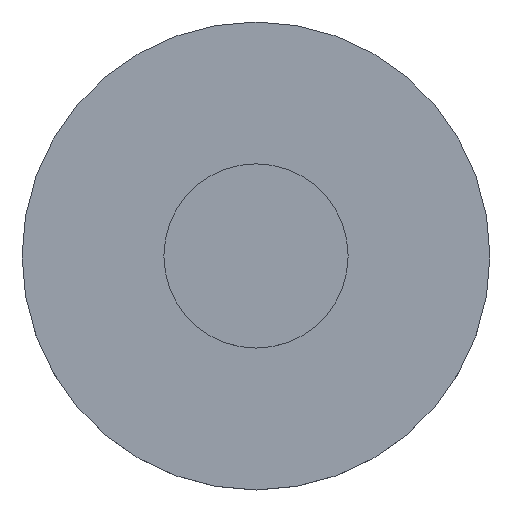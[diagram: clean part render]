
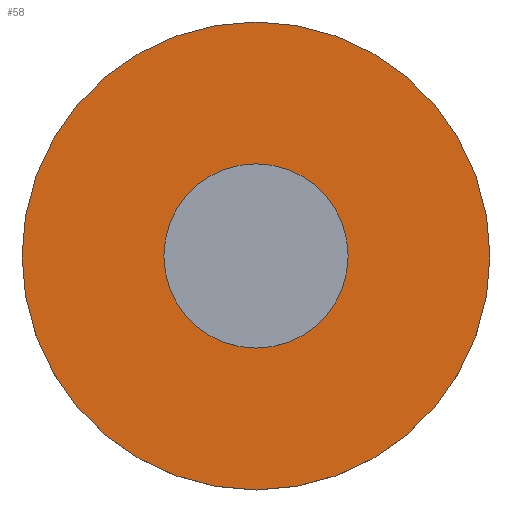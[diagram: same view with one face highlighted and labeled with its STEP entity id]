
A CAD part, top view. The second image highlights one B-rep face of the part: STEP entity #58.
In plain terms, the highlighted planar face has unit normal (0, 0, 1).
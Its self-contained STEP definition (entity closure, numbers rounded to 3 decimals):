
#58=ADVANCED_FACE('',(#72),#73,.T.);
#72=FACE_OUTER_BOUND('',#90,.T.);
#73=PLANE('',#91);
#90=EDGE_LOOP('',(#126,#127));
#91=AXIS2_PLACEMENT_3D('',#128,#129,#130);
#126=ORIENTED_EDGE('',*,*,#158,.T.);
#127=ORIENTED_EDGE('',*,*,#162,.T.);
#128=CARTESIAN_POINT('',(0.0,0.0,7.0));
#129=DIRECTION('',(0.0,0.0,1.0));
#130=DIRECTION('',(1.0,0.0,0.0));
#158=EDGE_CURVE('',#170,#174,#176,.T.);
#162=EDGE_CURVE('',#174,#170,#181,.T.);
#170=VERTEX_POINT('',#193);
#174=VERTEX_POINT('',#198);
#176=CIRCLE('',#201,25.4);
#181=CIRCLE('',#206,25.4);
#193=CARTESIAN_POINT('',(25.4,0.0,7.0));
#198=CARTESIAN_POINT('',(-25.4,0.,7.0));
#201=AXIS2_PLACEMENT_3D('',#224,#225,#226);
#206=AXIS2_PLACEMENT_3D('',#236,#237,#238);
#224=CARTESIAN_POINT('',(0.0,0.0,7.0));
#225=DIRECTION('',(0.0,0.0,1.0));
#226=DIRECTION('',(1.0,0.0,0.0));
#236=CARTESIAN_POINT('',(0.0,0.0,7.0));
#237=DIRECTION('',(0.0,0.0,1.0));
#238=DIRECTION('',(1.0,0.0,0.0));
